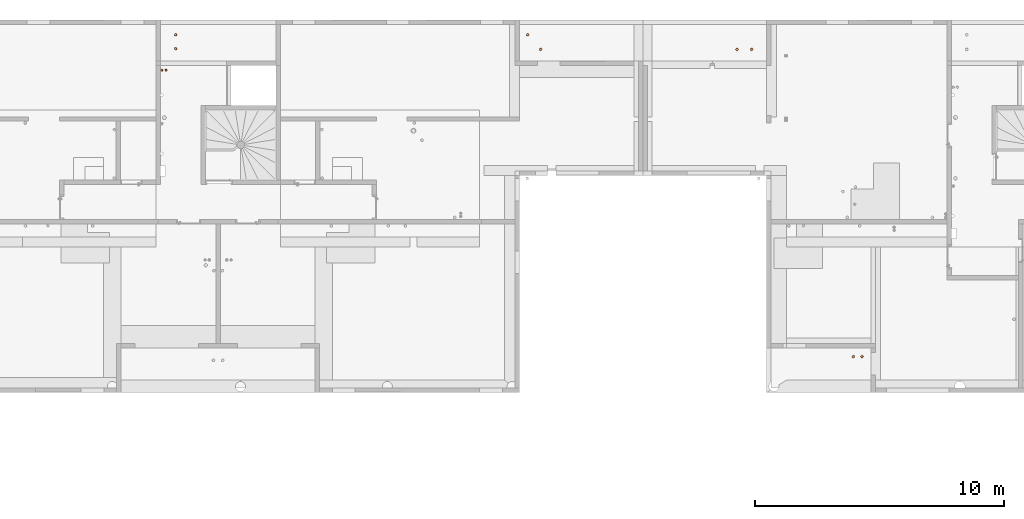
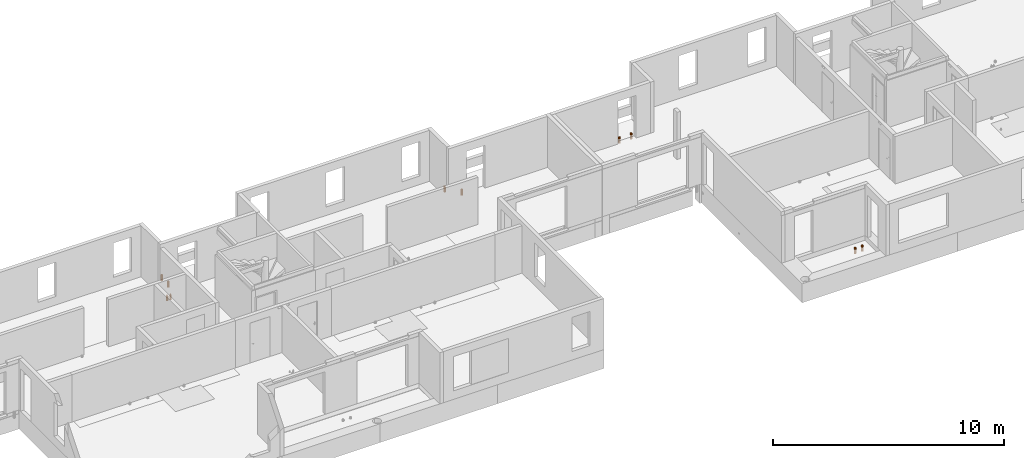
# One storey, part 31 of 34: 10 proxies.
"""IFC2X3 building model written with IfcOpenShell, lengths in centimetres."""

from ifc_helpers import new_model, entity, si_unit, converted_unit, derived_unit, direction, frame, frame_2d, origin, place, context, subcontext, project, spatial, circle, hollow_circle, extrude, source, transform, mapped, material, type_object, type_shapes, element, save


model = new_model("IFC2X3")

# Units and contexts
model_context = context("Model", 3, precision=0.001, world=origin(), true_north=direction((6.12303176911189e-17, 1.0)))
body_context = subcontext(model_context, "Body", "Model", "MODEL_VIEW")
ifc_project = project(units=[si_unit("LENGTHUNIT", "METRE", prefix="CENTI"), si_unit("AREAUNIT", "SQUARE_METRE"), si_unit("VOLUMEUNIT", "CUBIC_METRE"), converted_unit("PLANEANGLEUNIT", "DEGREE", entity("IfcRatioMeasure", 0.0174532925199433), si_unit("PLANEANGLEUNIT", "RADIAN"), dimensions=[0, 0, 0, 0, 0, 0, 0]), si_unit("MASSUNIT", "GRAM", prefix="KILO"), derived_unit("MASSDENSITYUNIT", [(si_unit("MASSUNIT", "GRAM", prefix="KILO"), 1), (si_unit("LENGTHUNIT", "METRE"), -3)]), si_unit("TIMEUNIT", "SECOND"), si_unit("FREQUENCYUNIT", "HERTZ"), si_unit("THERMODYNAMICTEMPERATUREUNIT", "DEGREE_CELSIUS"), derived_unit("THERMALTRANSMITTANCEUNIT", [(si_unit("MASSUNIT", "GRAM", prefix="KILO"), 1), (si_unit("THERMODYNAMICTEMPERATUREUNIT", "KELVIN"), -1), (si_unit("TIMEUNIT", "SECOND"), -3)]), derived_unit("VOLUMETRICFLOWRATEUNIT", [(si_unit("LENGTHUNIT", "METRE"), 3), (si_unit("TIMEUNIT", "SECOND"), -1)]), si_unit("ELECTRICCURRENTUNIT", "AMPERE"), si_unit("ELECTRICVOLTAGEUNIT", "VOLT"), si_unit("POWERUNIT", "WATT"), si_unit("FORCEUNIT", "NEWTON"), si_unit("ILLUMINANCEUNIT", "LUX"), si_unit("LUMINOUSFLUXUNIT", "LUMEN"), si_unit("LUMINOUSINTENSITYUNIT", "CANDELA"), derived_unit("USERDEFINED", [(si_unit("MASSUNIT", "GRAM", prefix="KILO"), -1), (si_unit("LENGTHUNIT", "METRE"), -2), (si_unit("TIMEUNIT", "SECOND"), 3), (si_unit("LUMINOUSFLUXUNIT", "LUMEN"), 1)]), derived_unit("LINEARVELOCITYUNIT", [(si_unit("LENGTHUNIT", "METRE"), 1), (si_unit("TIMEUNIT", "SECOND"), -1)]), si_unit("PRESSUREUNIT", "PASCAL"), derived_unit("USERDEFINED", [(si_unit("LENGTHUNIT", "METRE"), -2), (si_unit("MASSUNIT", "GRAM", prefix="KILO"), 1), (si_unit("TIMEUNIT", "SECOND"), -2)])], contexts=[model_context])

# Site, building, storey
site_placement = place(None, origin())
site = spatial("IfcSite", under=ifc_project, at=site_placement, Name="Default", CompositionType="ELEMENT")
building_placement = place(site_placement, origin())
building = spatial("IfcBuilding", under=site, at=building_placement, Name="CAGE 03", CompositionType="ELEMENT")
storey_placement = place(building_placement, frame((0.0, 0.0, 340.0)))
storey = spatial("IfcBuildingStorey", under=building, at=storey_placement, Name="R+1", CompositionType="ELEMENT", Elevation=340.0)

# Proxies
ifc_material_1 = material(Name="Conduit EP")
building_element_proxy_type_1 = type_object("IfcBuildingElementProxyType", Name="EP 100", PredefinedType="NOTDEFINED", material=ifc_material_1)
shared_shape_1 = source(origin(), body_context, "Body", "SweptSolid", [
    extrude(circle(Radius=5.5, at=frame_2d((0.0, -8.88549515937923e-15), x_axis=(1.0, 0.0))), frame((0.0, 0.0, -23.0)), (0.0, 0.0, 1.0), 23.0),
    extrude(hollow_circle(Radius=5.0, WallThickness=0.25, at=frame_2d((0.0, -8.07772287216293e-15), x_axis=(1.0, 0.0))), frame((0.0, 0.0, -23.0)), (0.0, 0.0, 1.0), 30.5),
])
type_shapes(building_element_proxy_type_1, [shared_shape_1])
for number, where, name in (
    (1, (9224.79491011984, 5175.42924962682, -25.0), "Galette - Résa - PVC:EP 100"),
    (2, (8325.2223880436, 5234.24642234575, -25.0), "Galette - Résa - PVC:EP 100"),
    (3, (8377.22872267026, 5175.42924962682, -25.0), "Galette - Résa - PVC:EP 100"),
    (4, (6910.95773583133, 5178.43270169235, -4.46999646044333e-07), "Galette - Résa - PVC:EP 100"),
    (5, (6910.95773583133, 5234.24642234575, -4.46999646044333e-07), "Galette - Résa - PVC:EP 100"),
    (6, (9668.36580348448, 3941.57451263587, -25.0), "Galette - Résa - PVC:EP 100"),
    (7, (9633.36580348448, 3941.57451263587, -25.0), "Galette - Résa - PVC:EP 100"),
    (8, (9165.97773740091, 5175.42924962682, -25.0), "Galette - Résa - PVC:EP 100"),
):
    element("IfcBuildingElementProxy", number, at=place(storey_placement, frame(where)), inside=storey, type_object=building_element_proxy_type_1, material=ifc_material_1, Name=name, ObjectType="EP 100", context=body_context, shape_type="MappedRepresentation", body=[
        mapped(shared_shape_1, transform((0.0, 0.0, 0.0), scale=1.0)),
    ])
ifc_material_2 = material(Name="Circuit CHF Aller")
building_element_proxy_type_2 = type_object("IfcBuildingElementProxyType", Name="CHF Aller 40", PredefinedType="NOTDEFINED", material=ifc_material_2)
shared_shape_2 = source(origin(), body_context, "Body", "SweptSolid", [
    extrude(circle(Radius=5.0, at=frame_2d((0.0, -8.07772287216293e-15), x_axis=(1.0, 0.0))), frame((0.0, 0.0, -23.0)), (0.0, 0.0, 1.0), 23.0),
    extrude(hollow_circle(Radius=2.0, WallThickness=0.4, at=frame_2d((0.0, -3.23108914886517e-15), x_axis=(1.0, 0.0))), frame((0.0, 0.0, -23.0)), (0.0, 0.0, 1.0), 30.5),
])
type_shapes(building_element_proxy_type_2, [shared_shape_2])
proxy_1_placement = place(storey_placement, frame((6872.36582014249, 5092.3606660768, -4.46999646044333e-07)))
element("IfcBuildingElementProxy", 9, at=proxy_1_placement, inside=storey, type_object=building_element_proxy_type_2, material=ifc_material_2, Name="Galette - Résa - PVC:CHF Aller 40", ObjectType="CHF Aller 40", context=body_context, shape_type="MappedRepresentation", body=[
    mapped(shared_shape_2, transform((0.0, 0.0, 0.0), scale=1.0)),
])
ifc_material_3 = material(Name="Circuit CHF Retour")
building_element_proxy_type_3 = type_object("IfcBuildingElementProxyType", Name="CHF Retour 42", PredefinedType="NOTDEFINED", material=ifc_material_3)
shared_shape_3 = source(origin(), body_context, "Body", "SweptSolid", [
    extrude(circle(Radius=5.0, at=frame_2d((0.0, -8.07772287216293e-15), x_axis=(1.0, 0.0))), frame((0.0, 0.0, -23.0)), (0.0, 0.0, 1.0), 23.0),
    extrude(hollow_circle(Radius=2.0, WallThickness=0.4, at=frame_2d((0.0, -3.23108914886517e-15), x_axis=(1.0, 0.0))), frame((0.0, 0.0, -23.0)), (0.0, 0.0, 1.0), 30.5),
])
type_shapes(building_element_proxy_type_3, [shared_shape_3])
proxy_2_placement = place(storey_placement, frame((6855.36582014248, 5092.3606660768, -4.46999646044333e-07)))
element("IfcBuildingElementProxy", 10, at=proxy_2_placement, inside=storey, type_object=building_element_proxy_type_3, material=ifc_material_3, Name="Galette - Résa - PVC:CHF Retour 42", ObjectType="CHF Retour 42", context=body_context, shape_type="MappedRepresentation", body=[
    mapped(shared_shape_3, transform((0.0, 0.0, 0.0), scale=1.0)),
])

save(model, "model.ifc")
